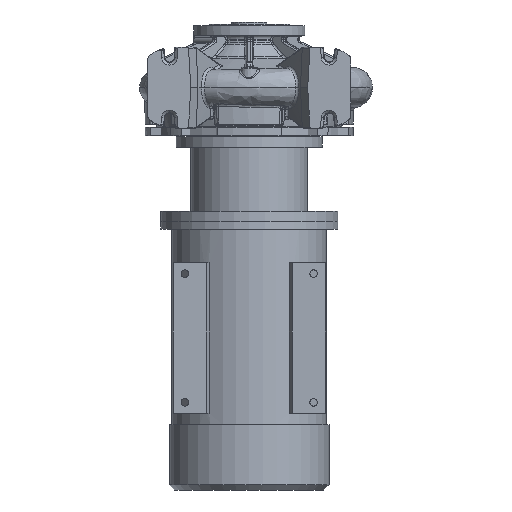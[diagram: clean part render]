
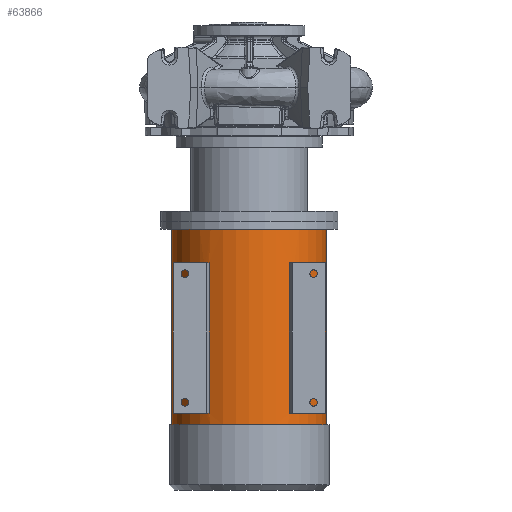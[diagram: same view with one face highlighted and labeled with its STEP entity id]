
A CAD part, front view. The second image highlights one B-rep face of the part: STEP entity #63866.
In plain terms, the highlighted cylindrical face has radius 152.5 mm (diameter 305 mm), a partial arc.
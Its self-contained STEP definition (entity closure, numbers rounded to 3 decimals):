
#193 = EDGE_CURVE ( 'NONE', #101329, #61918, #121820, .T. ) ;
#298 = DIRECTION ( 'NONE',  ( 0., 0., -1. ) ) ;
#2505 = VERTEX_POINT ( 'NONE', #116053 ) ;
#5143 = VERTEX_POINT ( 'NONE', #33516 ) ;
#8985 = ORIENTED_EDGE ( 'NONE', *, *, #102664, .T. ) ;
#9143 = ORIENTED_EDGE ( 'NONE', *, *, #124472, .F. ) ;
#9228 = EDGE_CURVE ( 'NONE', #2505, #101329, #21505, .T. ) ;
#9230 = DIRECTION ( 'NONE',  ( 0., 0., -1. ) ) ;
#9731 = CARTESIAN_POINT ( 'NONE',  ( 0., 0., -279.3 ) ) ;
#10840 = AXIS2_PLACEMENT_3D ( 'NONE', #32005, #119586, #60238 ) ;
#12374 = DIRECTION ( 'NONE',  ( 0., 0., -1. ) ) ;
#14091 = CARTESIAN_POINT ( 'NONE',  ( -79.357, -130.226, -794.3 ) ) ;
#15302 = AXIS2_PLACEMENT_3D ( 'NONE', #31582, #12374, #21314 ) ;
#16603 = VECTOR ( 'NONE', #9230, 1000. ) ;
#18272 = DIRECTION ( 'NONE',  ( 0., 0., -1. ) ) ;
#19308 = DIRECTION ( 'NONE',  ( 0., 0., 1. ) ) ;
#20560 = LINE ( 'NONE', #93819, #58824 ) ;
#21314 = DIRECTION ( 'NONE',  ( -1., 0., 0. ) ) ;
#21505 = LINE ( 'NONE', #40660, #23101 ) ;
#21684 = ORIENTED_EDGE ( 'NONE', *, *, #78238, .F. ) ;
#22568 = AXIS2_PLACEMENT_3D ( 'NONE', #9731, #298, #97641 ) ;
#23101 = VECTOR ( 'NONE', #89794, 1000. ) ;
#23218 = ORIENTED_EDGE ( 'NONE', *, *, #35799, .F. ) ;
#23724 = VECTOR ( 'NONE', #114134, 1000. ) ;
#23798 = CARTESIAN_POINT ( 'NONE',  ( 89.37, -123.569, -642.8 ) ) ;
#24563 = VECTOR ( 'NONE', #106223, 1000. ) ;
#25792 = LINE ( 'NONE', #28025, #16603 ) ;
#27752 = VERTEX_POINT ( 'NONE', #87815 ) ;
#28025 = CARTESIAN_POINT ( 'NONE',  ( -89.37, -123.569, -794.3 ) ) ;
#29050 = CARTESIAN_POINT ( 'NONE',  ( 79.357, -130.226, -345.8 ) ) ;
#29262 = CIRCLE ( 'NONE', #72041, 152.5 ) ;
#31213 = ORIENTED_EDGE ( 'NONE', *, *, #49251, .F. ) ;
#31463 = AXIS2_PLACEMENT_3D ( 'NONE', #58605, #19308, #88048 ) ;
#31582 = CARTESIAN_POINT ( 'NONE',  ( 0., 0., -665.3 ) ) ;
#32005 = CARTESIAN_POINT ( 'NONE',  ( 0., 0., -642.8 ) ) ;
#32057 = CARTESIAN_POINT ( 'NONE',  ( 152.5, 0., -279.3 ) ) ;
#33516 = CARTESIAN_POINT ( 'NONE',  ( -79.357, -130.226, -345.8 ) ) ;
#34148 = CARTESIAN_POINT ( 'NONE',  ( -79.357, -130.226, -642.8 ) ) ;
#35592 = DIRECTION ( 'NONE',  ( 1., 0., 0. ) ) ;
#35799 = EDGE_CURVE ( 'NONE', #122391, #5143, #78882, .T. ) ;
#36591 = CARTESIAN_POINT ( 'NONE',  ( 89.37, -123.569, -345.8 ) ) ;
#36903 = EDGE_CURVE ( 'NONE', #61918, #112167, #42085, .T. ) ;
#37344 = ORIENTED_EDGE ( 'NONE', *, *, #65307, .T. ) ;
#39534 = CARTESIAN_POINT ( 'NONE',  ( 0., 0., -794.3 ) ) ;
#40660 = CARTESIAN_POINT ( 'NONE',  ( 79.357, -130.226, -794.3 ) ) ;
#41424 = AXIS2_PLACEMENT_3D ( 'NONE', #54403, #83833, #35592 ) ;
#42085 = LINE ( 'NONE', #122304, #23724 ) ;
#43692 = AXIS2_PLACEMENT_3D ( 'NONE', #39534, #89473, #89046 ) ;
#44596 = CARTESIAN_POINT ( 'NONE',  ( -89.37, -123.569, -345.8 ) ) ;
#47112 = DIRECTION ( 'NONE',  ( 0., 0., -1. ) ) ;
#47943 = CARTESIAN_POINT ( 'NONE',  ( 0., 0., -642.8 ) ) ;
#48825 = FACE_BOUND ( 'NONE', #52971, .T. ) ;
#49251 = EDGE_CURVE ( 'NONE', #27752, #74547, #117825, .T. ) ;
#52971 = EDGE_LOOP ( 'NONE', ( #90364, #82247, #59888, #115015 ) ) ;
#54403 = CARTESIAN_POINT ( 'NONE',  ( 0., 0., -345.8 ) ) ;
#58304 = VERTEX_POINT ( 'NONE', #32057 ) ;
#58605 = CARTESIAN_POINT ( 'NONE',  ( 0., 0., -345.8 ) ) ;
#58824 = VECTOR ( 'NONE', #18272, 1000. ) ;
#59888 = ORIENTED_EDGE ( 'NONE', *, *, #193, .T. ) ;
#60238 = DIRECTION ( 'NONE',  ( -1., 0., 0. ) ) ;
#61918 = VERTEX_POINT ( 'NONE', #36591 ) ;
#63866 = ADVANCED_FACE ( 'NONE', ( #68659, #48825, #103816 ), #122123, .T. ) ;
#64282 = LINE ( 'NONE', #77570, #24563 ) ;
#65307 = EDGE_CURVE ( 'NONE', #58304, #120783, #126516, .T. ) ;
#67921 = EDGE_CURVE ( 'NONE', #58304, #27752, #64282, .T. ) ;
#68659 = FACE_OUTER_BOUND ( 'NONE', #70132, .T. ) ;
#70132 = EDGE_LOOP ( 'NONE', ( #111313, #37344, #8985, #31213 ) ) ;
#70238 = CARTESIAN_POINT ( 'NONE',  ( -152.5, 0., -279.3 ) ) ;
#71821 = VERTEX_POINT ( 'NONE', #44596 ) ;
#72041 = AXIS2_PLACEMENT_3D ( 'NONE', #47943, #47112, #115853 ) ;
#74547 = VERTEX_POINT ( 'NONE', #87892 ) ;
#77256 = EDGE_CURVE ( 'NONE', #2505, #112167, #90073, .T. ) ;
#77570 = CARTESIAN_POINT ( 'NONE',  ( 152.5, 0., -794.3 ) ) ;
#77618 = ORIENTED_EDGE ( 'NONE', *, *, #95067, .T. ) ;
#78238 = EDGE_CURVE ( 'NONE', #71821, #110214, #25792, .T. ) ;
#78882 = LINE ( 'NONE', #14091, #104885 ) ;
#82247 = ORIENTED_EDGE ( 'NONE', *, *, #9228, .T. ) ;
#83833 = DIRECTION ( 'NONE',  ( 0., 0., -1. ) ) ;
#87815 = CARTESIAN_POINT ( 'NONE',  ( 152.5, 0., -665.3 ) ) ;
#87892 = CARTESIAN_POINT ( 'NONE',  ( -152.5, 0., -665.3 ) ) ;
#88048 = DIRECTION ( 'NONE',  ( -1., 0., 0. ) ) ;
#89046 = DIRECTION ( 'NONE',  ( -1., 0., 0. ) ) ;
#89473 = DIRECTION ( 'NONE',  ( 0., 0., -1. ) ) ;
#89794 = DIRECTION ( 'NONE',  ( 0., 0., 1. ) ) ;
#90073 = CIRCLE ( 'NONE', #10840, 152.5 ) ;
#90364 = ORIENTED_EDGE ( 'NONE', *, *, #77256, .F. ) ;
#93819 = CARTESIAN_POINT ( 'NONE',  ( -152.5, 0., -794.3 ) ) ;
#94573 = CIRCLE ( 'NONE', #41424, 152.5 ) ;
#95067 = EDGE_CURVE ( 'NONE', #122391, #110214, #29262, .T. ) ;
#97641 = DIRECTION ( 'NONE',  ( -1., 0., 0. ) ) ;
#99250 = CARTESIAN_POINT ( 'NONE',  ( -89.37, -123.569, -642.8 ) ) ;
#101329 = VERTEX_POINT ( 'NONE', #29050 ) ;
#102664 = EDGE_CURVE ( 'NONE', #120783, #74547, #20560, .T. ) ;
#103816 = FACE_BOUND ( 'NONE', #126010, .T. ) ;
#104885 = VECTOR ( 'NONE', #114846, 1000. ) ;
#106223 = DIRECTION ( 'NONE',  ( 0., 0., -1. ) ) ;
#110214 = VERTEX_POINT ( 'NONE', #99250 ) ;
#111313 = ORIENTED_EDGE ( 'NONE', *, *, #67921, .F. ) ;
#112167 = VERTEX_POINT ( 'NONE', #23798 ) ;
#114134 = DIRECTION ( 'NONE',  ( 0., 0., -1. ) ) ;
#114846 = DIRECTION ( 'NONE',  ( 0., 0., 1. ) ) ;
#115015 = ORIENTED_EDGE ( 'NONE', *, *, #36903, .T. ) ;
#115853 = DIRECTION ( 'NONE',  ( 1., 0., 0. ) ) ;
#116053 = CARTESIAN_POINT ( 'NONE',  ( 79.357, -130.226, -642.8 ) ) ;
#117825 = CIRCLE ( 'NONE', #15302, 152.5 ) ;
#119586 = DIRECTION ( 'NONE',  ( 0., 0., 1. ) ) ;
#120783 = VERTEX_POINT ( 'NONE', #70238 ) ;
#121820 = CIRCLE ( 'NONE', #31463, 152.5 ) ;
#122123 = CYLINDRICAL_SURFACE ( 'NONE', #43692, 152.5 ) ;
#122304 = CARTESIAN_POINT ( 'NONE',  ( 89.37, -123.569, -794.3 ) ) ;
#122391 = VERTEX_POINT ( 'NONE', #34148 ) ;
#124472 = EDGE_CURVE ( 'NONE', #5143, #71821, #94573, .T. ) ;
#126010 = EDGE_LOOP ( 'NONE', ( #23218, #77618, #21684, #9143 ) ) ;
#126516 = CIRCLE ( 'NONE', #22568, 152.5 ) ;
